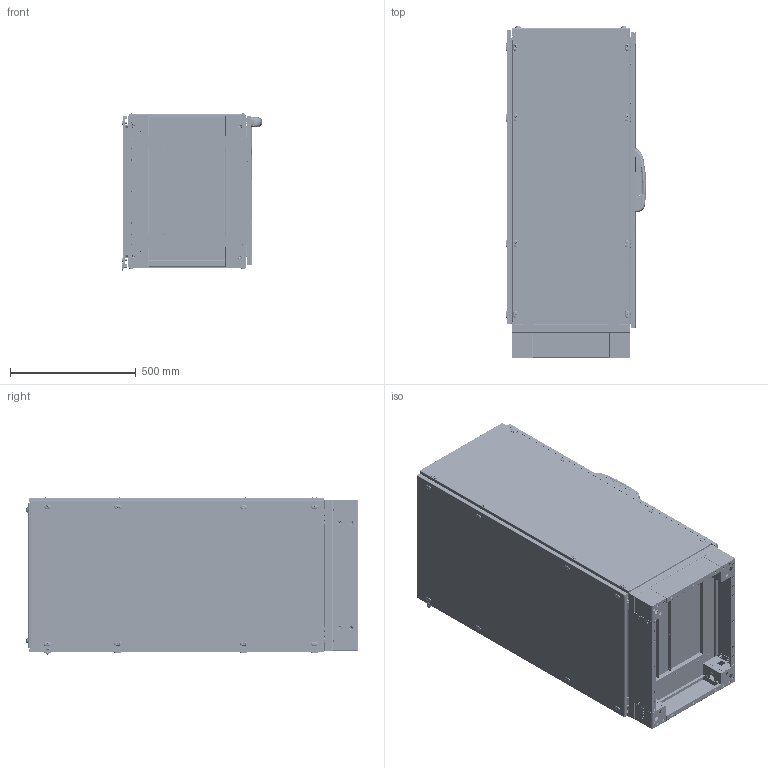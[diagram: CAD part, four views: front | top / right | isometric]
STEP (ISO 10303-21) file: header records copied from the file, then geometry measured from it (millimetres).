
FILE_DESCRIPTION (( 'STEP AP203' ), '1' );
FILE_NAME ('706.125 600x1200x500.STEP', '2020-04-04T14:00:27', ( '' ), ( '' ), 'SwSTEP 2.0', 'SolidWorks 2019', '' );
FILE_SCHEMA (( 'CONFIG_CONTROL_DESIGN' ));
Length unit declared in the file: millimetre
Products named in the file (125): PB 14.0004 M6 HAVÞA PLASTÝK CÝVATA; MP 18.7631 Arka Kapak; V3 -2011 DT BAZA KAPAGI yan_PP 12.0050 - 500; M6 KAFES SOMU2015; M5 DÝKEY PROFÝL RONDELA; 252016-2; M8 Somun Kafesi_m8; TEOS Yeni Kapak Montaj version 2_1200; socket head cap screw_am_B18.3.1M - 8 x 1.25 x 35 Hex SHCS -- 35NHX; TEOS Kilit Üst Çubuk Montaj_1200H; TEOS Kilit Alt Çubuk Montaj_1200H; TEOS iskelet_600x1200x500; MP 18.7631 Kayar Parça; L KOSE DESTEKorj1; yan arka kapak baglantý saci orta; Teos-Neo MP Sað Braket Montaj_Standart Pozisyon; Ust Kapak 2009-10 gecme askili vidalý 1.5 akb rev_PP 12.0005 600X500; 03-2012 sac kilit dil 10-2010 ORTA; V2 BAZA KOSESI2015_100; M6 HAVÞA PLASTÝK CÝVATA; 03-2012 sac kilit dil 10-2010 alt ust; BAZA KÖÞES_SAG; socket button head cap screw_am_B18.3.4M - 8 x 1.25 x 16 SBHCS --N; percinli taban-vidalý kapak-kose pls yok_701.650-60X50 ALT; MP 14.0007 M6 PLASTÝK HAVSA; 22032010-PLASTIK KOSE50x40; kafes somun kafes; BAZA KÖÞES_SOL; BOYUNA DELIKLI PROFIL_1200; TEOS TEK KAPAK REVÝZE_600x1200; MP 18.7631 204 handle REV04 tekpan logo; MP 18.7631 32002136; ENINE DELIKLI PROFIL_600; Teos-Neo MP Durdurucu; MP 18.7631 Modul; TEOS SIDE PANEL_706.125 1200X500; TEOS Kilit Çubuk Pimi; BAZA SISTEMIV2-6 baza kapaðý201550x40; kose rondela kabartmaSIZ 12; BAZA SISTEMIV2-6 baza kapaðý201550x40_TEKPAN LOGOLU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
Assembly tree (387 placements, depth 7):
  706.125 600x1200x500
    TEOS iskelet_600x1200x500
      kapali dikey profilkenetli_ita oluklu10-aaaaaaaaaaaa-1_1200  x4
      kapali dikey profilkenetli_ita oluklu10-aaaaaaaaaaaa-1_500  x4
      kapali dikey profilkenetli_ita oluklu10-aaaaaaaaaaaa-1_600  x4
      L KOSE DESTEKorj1  x8
      kose rondela kabartmaSIZ 10  x15
      kose rondela kabartmaSIZ 12
      MP 11.0140 TEOS ALUMINYUM KOSE APPROVED 16.08.2010  x8
      M5 DÝKEY PROFÝL RONDELA  x16
      percinli taban-vidalý kapak-kose pls yok_701.650-60X50 ALT
        03-taban genislik percinli 04 - 2012 100-120_PP 12.0019 - 600  x2
        03taban derinlik percinli_PP 12.0024 - 500  x2
        03-KOSE PUNT_PP 12.0027
        03-KOSE PUNT
        Mirror03-KOSE PUNT  x2
        TEOS V2 BAZA S嵞TEM廆600X500
          BAZA KÖÞES_SAG
            V2 BAZA KOSESI2015_100
            BAZA SISTEMIV2-6 baza kapaðý201550x40_TEKPAN LOGOLU
            M6 KAFES SOMU2015
              kafes somun kafes
              somu
            M6 KAFES SOMU2015
              kafes somun kafes
              somu
          V2 -2011 DT BAZA KAPAGI ON_PP 12.0045 - 600  x2
          BAZA KÖÞES_SOL
            V2 BAZA KOSESI2015_100
            BAZA SISTEMIV2-6 baza kapaðý201550x40
            M6 KAFES SOMU2015
              kafes somun kafes
              somu
            M6 KAFES SOMU2015
              kafes somun kafes
              somu
          BAZA KÖÞES_SAG
            V2 BAZA KOSESI2015_100
            BAZA SISTEMIV2-6 baza kapaðý201550x40_TEKPAN LOGOLU
            M6 KAFES SOMU2015
              kafes somun kafes
              somu
            M6 KAFES SOMU2015
              kafes somun kafes
              somu
          BAZA KÖÞES_SOL
            V2 BAZA KOSESI2015_100
            BAZA SISTEMIV2-6 baza kapaðý201550x40
            M6 KAFES SOMU2015
              kafes somun kafes
              somu
            M6 KAFES SOMU2015
              kafes somun kafes
              somu
          V3 -2011 DT BAZA KAPAGI yan_PP 12.0050 - 500  x2
          flat head screw_am_B18.6.7M - M6 x 1.0 x 20 Type I Cross Recessed FHMS --20N  x8
        03-TABAN SACI SURGU_PP 12.0030 - 600
        03-TABAN SACI U1 04-2012_PP 12.0040 - 600-75
        03-TABAN SACI U1 04-2012_PP 12.0035 - 600-200
        mp aLT DAYAMA_PP 12.0092 - 500  x2
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Bounding box: 558.07 x 1317.1 x 623.59 mm (x, y, z)
Volume: 13542968 mm3; surface area: 14111742.6 mm2
Topology: 333 solids, 373 shells, 47425 faces, 127505 edges, 80523 vertices
Faces by surface type: plane 30392, cylinder 12100, bspline 2211, torus 1147, cone 966, sphere 609
Entity records: 668358 total; most frequent: CARTESIAN_POINT 288634, ORIENTED_EDGE 77238, DIRECTION 70672, EDGE_CURVE 38619, LINE 25806, VECTOR 25806, VERTEX_POINT 24642, AXIS2_PLACEMENT_3D 22433
